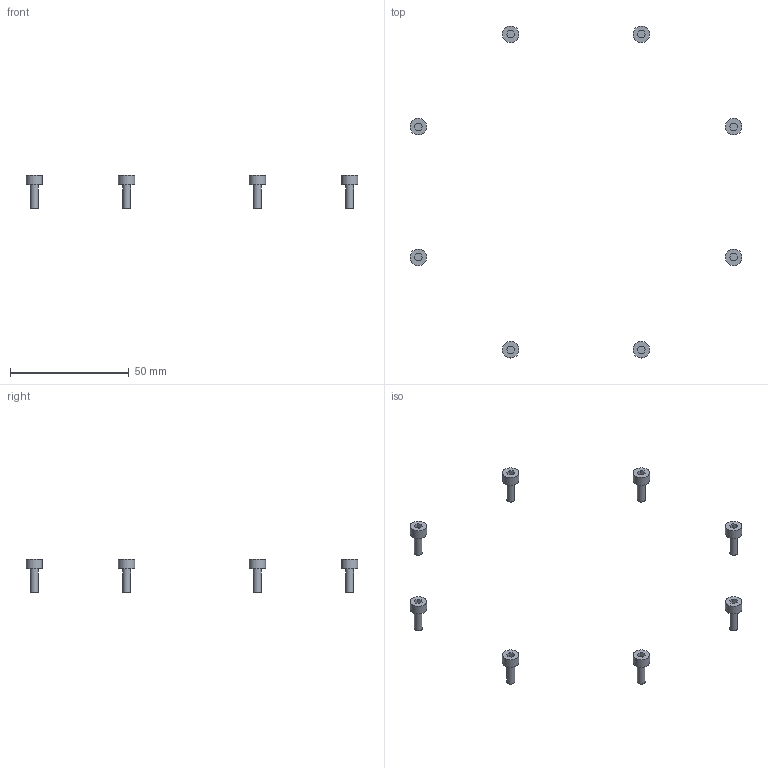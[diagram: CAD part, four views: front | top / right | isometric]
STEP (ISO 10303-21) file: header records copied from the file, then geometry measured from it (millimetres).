
FILE_DESCRIPTION(('Open CASCADE Model'),'2;1');
FILE_NAME('Open CASCADE Shape Model','2026-09-23T04:43:35',('Author'),( 'Open CASCADE'),'Open CASCADE STEP processor 7.9','Open CASCADE 7.9' ,'Unknown');
FILE_SCHEMA(('AUTOMOTIVE_DESIGN { 1 0 10303 214 1 1 1 1 }'));
Length unit declared in the file: millimetre
Products named in the file (9): Open CASCADE STEP translator 7.9 2; Open CASCADE STEP translator 7.9 2.1; Open CASCADE STEP translator 7.9 2.2; Open CASCADE STEP translator 7.9 2.3; Open CASCADE STEP translator 7.9 2.4; Open CASCADE STEP translator 7.9 2.5; Open CASCADE STEP translator 7.9 2.6; Open CASCADE STEP translator 7.9 2.7; Open CASCADE STEP translator 7.9 2.8
Assembly tree (8 placements, depth 2):
  Open CASCADE STEP translator 7.9 2
    Open CASCADE STEP translator 7.9 2.1
    Open CASCADE STEP translator 7.9 2.2
    Open CASCADE STEP translator 7.9 2.3
    Open CASCADE STEP translator 7.9 2.4
    Open CASCADE STEP translator 7.9 2.5
    Open CASCADE STEP translator 7.9 2.6
    Open CASCADE STEP translator 7.9 2.7
    Open CASCADE STEP translator 7.9 2.8
Bounding box: 140.04 x 140.04 x 14 mm (x, y, z)
Volume: 1791 mm3; surface area: 2315.1 mm2
Topology: 8 solids, 8 shells, 96 faces, 192 edges, 128 vertices
Faces by surface type: plane 80, cylinder 16
Full cylindrical faces by diameter (mm): 3.3 x8, 7 x8
Entity records: 5104 total; most frequent: DIRECTION 818, CARTESIAN_POINT 809, LINE 512, VECTOR 512, ORIENTED_EDGE 384, PCURVE 384, DEFINITIONAL_REPRESENTATION 384, EDGE_CURVE 192
